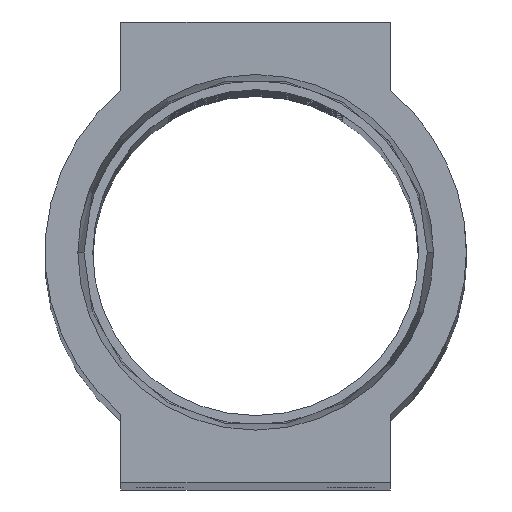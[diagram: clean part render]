
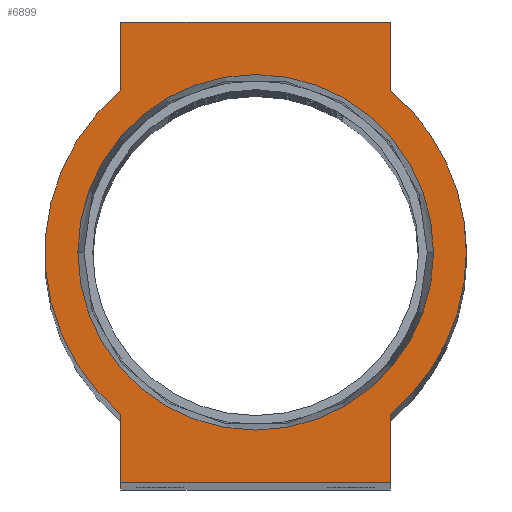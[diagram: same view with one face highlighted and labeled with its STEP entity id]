
A CAD part, top view. The second image highlights one B-rep face of the part: STEP entity #6899.
In plain terms, the highlighted planar face has unit normal (0, 0, 1).
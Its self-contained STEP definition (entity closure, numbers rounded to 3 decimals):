
#36 = DIRECTION ( 'NONE',  ( 0., 0., 1. ) ) ;
#446 = CARTESIAN_POINT ( 'NONE',  ( 12., 14.407, 0. ) ) ;
#568 = VECTOR ( 'NONE', #6699, 1000. ) ;
#619 = ORIENTED_EDGE ( 'NONE', *, *, #5348, .T. ) ;
#645 = ORIENTED_EDGE ( 'NONE', *, *, #2530, .T. ) ;
#1094 = DIRECTION ( 'NONE',  ( 0., 0., 1. ) ) ;
#1295 = DIRECTION ( 'NONE',  ( 1., 0., 0. ) ) ;
#1573 = DIRECTION ( 'NONE',  ( 0., 0., 1. ) ) ;
#1780 = CARTESIAN_POINT ( 'NONE',  ( -12., -14.407, 0. ) ) ;
#1792 = EDGE_LOOP ( 'NONE', ( #10978, #645, #5938, #8680, #2666, #619, #3730, #3111, #1972 ) ) ;
#1886 = CIRCLE ( 'NONE', #8751, 15.827 ) ;
#1901 = AXIS2_PLACEMENT_3D ( 'NONE', #10772, #1094, #1295 ) ;
#1935 = CIRCLE ( 'NONE', #6573, 18.75 ) ;
#1972 = ORIENTED_EDGE ( 'NONE', *, *, #3351, .T. ) ;
#2007 = EDGE_CURVE ( 'NONE', #7547, #3039, #3581, .T. ) ;
#2362 = LINE ( 'NONE', #6578, #2637 ) ;
#2398 = VERTEX_POINT ( 'NONE', #7914 ) ;
#2472 = ORIENTED_EDGE ( 'NONE', *, *, #3602, .F. ) ;
#2530 = EDGE_CURVE ( 'NONE', #11631, #7547, #13474, .T. ) ;
#2637 = VECTOR ( 'NONE', #4297, 1000. ) ;
#2666 = ORIENTED_EDGE ( 'NONE', *, *, #7097, .T. ) ;
#2766 = DIRECTION ( 'NONE',  ( 0., -1., 0. ) ) ;
#3039 = VERTEX_POINT ( 'NONE', #11638 ) ;
#3111 = ORIENTED_EDGE ( 'NONE', *, *, #7960, .T. ) ;
#3351 = EDGE_CURVE ( 'NONE', #6577, #8169, #12939, .T. ) ;
#3447 = AXIS2_PLACEMENT_3D ( 'NONE', #7651, #11853, #10837 ) ;
#3581 = LINE ( 'NONE', #12009, #568 ) ;
#3602 = EDGE_CURVE ( 'NONE', #5153, #2398, #1886, .T. ) ;
#3696 = ORIENTED_EDGE ( 'NONE', *, *, #12146, .F. ) ;
#3730 = ORIENTED_EDGE ( 'NONE', *, *, #6648, .T. ) ;
#3764 = CARTESIAN_POINT ( 'NONE',  ( 12., 20.5, 0. ) ) ;
#3814 = AXIS2_PLACEMENT_3D ( 'NONE', #10673, #1573, #10814 ) ;
#3931 = CARTESIAN_POINT ( 'NONE',  ( -15.827, 0., 0. ) ) ;
#4037 = VERTEX_POINT ( 'NONE', #10395 ) ;
#4069 = LINE ( 'NONE', #6063, #12047 ) ;
#4297 = DIRECTION ( 'NONE',  ( 0., 1., 0. ) ) ;
#5153 = VERTEX_POINT ( 'NONE', #3931 ) ;
#5214 = DIRECTION ( 'NONE',  ( 1., 0., 0. ) ) ;
#5348 = EDGE_CURVE ( 'NONE', #8853, #4037, #12894, .T. ) ;
#5371 = FACE_OUTER_BOUND ( 'NONE', #1792, .T. ) ;
#5775 = CARTESIAN_POINT ( 'NONE',  ( -12., 20.5, 0. ) ) ;
#5938 = ORIENTED_EDGE ( 'NONE', *, *, #2007, .T. ) ;
#6063 = CARTESIAN_POINT ( 'NONE',  ( 12., -20.5, 0. ) ) ;
#6081 = CARTESIAN_POINT ( 'NONE',  ( -12., 20.5, 0. ) ) ;
#6094 = CARTESIAN_POINT ( 'NONE',  ( 0., 0., 0. ) ) ;
#6266 = CARTESIAN_POINT ( 'NONE',  ( 0., 0., 0. ) ) ;
#6410 = DIRECTION ( 'NONE',  ( 1., 0., 0. ) ) ;
#6536 = FACE_BOUND ( 'NONE', #9275, .T. ) ;
#6573 = AXIS2_PLACEMENT_3D ( 'NONE', #10135, #9169, #8128 ) ;
#6577 = VERTEX_POINT ( 'NONE', #7970 ) ;
#6578 = CARTESIAN_POINT ( 'NONE',  ( 12., 20.5, 0. ) ) ;
#6648 = EDGE_CURVE ( 'NONE', #4037, #13362, #4069, .T. ) ;
#6699 = DIRECTION ( 'NONE',  ( 0., -1., 0. ) ) ;
#6728 = VECTOR ( 'NONE', #11290, 1000. ) ;
#6899 = ADVANCED_FACE ( 'NONE', ( #6536, #5371 ), #9608, .T. ) ;
#7097 = EDGE_CURVE ( 'NONE', #10647, #8853, #8106, .T. ) ;
#7547 = VERTEX_POINT ( 'NONE', #5775 ) ;
#7651 = CARTESIAN_POINT ( 'NONE',  ( 0., 0., 0. ) ) ;
#7889 = VECTOR ( 'NONE', #2766, 1000. ) ;
#7914 = CARTESIAN_POINT ( 'NONE',  ( 15.827, 0., 0. ) ) ;
#7947 = CARTESIAN_POINT ( 'NONE',  ( -12., -20.5, 0. ) ) ;
#7960 = EDGE_CURVE ( 'NONE', #13362, #6577, #1935, .T. ) ;
#7970 = CARTESIAN_POINT ( 'NONE',  ( 18.75, 0., 0. ) ) ;
#8106 = LINE ( 'NONE', #12306, #7889 ) ;
#8128 = DIRECTION ( 'NONE',  ( 1., 0., 0. ) ) ;
#8169 = VERTEX_POINT ( 'NONE', #446 ) ;
#8264 = CIRCLE ( 'NONE', #3814, 15.827 ) ;
#8680 = ORIENTED_EDGE ( 'NONE', *, *, #9987, .T. ) ;
#8751 = AXIS2_PLACEMENT_3D ( 'NONE', #6094, #13486, #5214 ) ;
#8853 = VERTEX_POINT ( 'NONE', #12028 ) ;
#9169 = DIRECTION ( 'NONE',  ( 0., 0., 1. ) ) ;
#9275 = EDGE_LOOP ( 'NONE', ( #3696, #2472 ) ) ;
#9608 = PLANE ( 'NONE',  #1901 ) ;
#9733 = AXIS2_PLACEMENT_3D ( 'NONE', #6266, #36, #6410 ) ;
#9955 = CIRCLE ( 'NONE', #9733, 18.75 ) ;
#9987 = EDGE_CURVE ( 'NONE', #3039, #10647, #9955, .T. ) ;
#10123 = VECTOR ( 'NONE', #12143, 1000. ) ;
#10135 = CARTESIAN_POINT ( 'NONE',  ( 0., 0., 0. ) ) ;
#10395 = CARTESIAN_POINT ( 'NONE',  ( 12., -20.5, 0. ) ) ;
#10632 = CARTESIAN_POINT ( 'NONE',  ( 12., -14.407, 0. ) ) ;
#10647 = VERTEX_POINT ( 'NONE', #1780 ) ;
#10673 = CARTESIAN_POINT ( 'NONE',  ( 0., 0., 0. ) ) ;
#10772 = CARTESIAN_POINT ( 'NONE',  ( 0., 0., 0. ) ) ;
#10814 = DIRECTION ( 'NONE',  ( 1., 0., 0. ) ) ;
#10837 = DIRECTION ( 'NONE',  ( 1., 0., 0. ) ) ;
#10972 = EDGE_CURVE ( 'NONE', #8169, #11631, #2362, .T. ) ;
#10978 = ORIENTED_EDGE ( 'NONE', *, *, #10972, .T. ) ;
#11290 = DIRECTION ( 'NONE',  ( -1., 0., 0. ) ) ;
#11631 = VERTEX_POINT ( 'NONE', #3764 ) ;
#11638 = CARTESIAN_POINT ( 'NONE',  ( -12., 14.407, 0. ) ) ;
#11853 = DIRECTION ( 'NONE',  ( 0., 0., 1. ) ) ;
#12009 = CARTESIAN_POINT ( 'NONE',  ( -12., 20.5, 0. ) ) ;
#12028 = CARTESIAN_POINT ( 'NONE',  ( -12., -20.5, 0. ) ) ;
#12047 = VECTOR ( 'NONE', #13392, 1000. ) ;
#12143 = DIRECTION ( 'NONE',  ( 1., 0., 0. ) ) ;
#12146 = EDGE_CURVE ( 'NONE', #2398, #5153, #8264, .T. ) ;
#12306 = CARTESIAN_POINT ( 'NONE',  ( -12., -20.5, 0. ) ) ;
#12894 = LINE ( 'NONE', #7947, #10123 ) ;
#12939 = CIRCLE ( 'NONE', #3447, 18.75 ) ;
#13362 = VERTEX_POINT ( 'NONE', #10632 ) ;
#13392 = DIRECTION ( 'NONE',  ( 0., 1., 0. ) ) ;
#13474 = LINE ( 'NONE', #6081, #6728 ) ;
#13486 = DIRECTION ( 'NONE',  ( 0., 0., 1. ) ) ;
